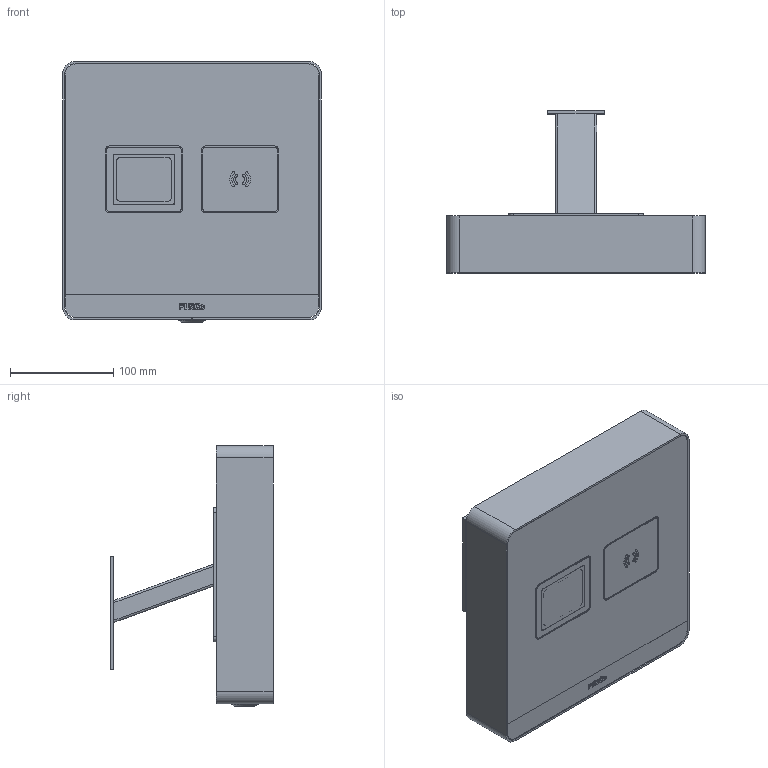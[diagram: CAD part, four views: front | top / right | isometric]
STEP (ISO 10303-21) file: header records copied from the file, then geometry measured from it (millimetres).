
FILE_DESCRIPTION(/* description */ ('Unknown'),/* implementation_level */ '2;1');
FILE_NAME(/* name */ 'PR-01',/* time_stamp */ '2025-10-16T10:14:52+03:00',/* author */ ('Unknown'),/* organization */ ('Unknown'),/* preprocessor_version */ 'ST-DEVELOPER v18.102',/* originating_system */ 'Solid Edge',/* authorisation */ 'Unknown');
FILE_SCHEMA (('CONFIG_CONTROL_DESIGN'));
Length unit declared in the file: millimetre
Products named in the file (1): PR-01
Bounding box: 250 x 156.96 x 252.4 mm (x, y, z)
Volume: 751278.4 mm3; surface area: 657568.8 mm2
Topology: 19 solids, 21 shells, 1029 faces, 2563 edges, 1633 vertices
Faces by surface type: plane 618, cylinder 300, bspline 56, cone 41, torus 12, sphere 2
Full cylindrical faces by diameter (mm): 0.5 x10, 1 x1, 3 x8, 3.5 x4, 3.6 x1, 3.9 x4, 4 x4, 4.134 x2, 5 x23, 5.5 x4, 6 x1, 7 x4, 8 x4, 9 x1, 11 x1, 12.4 x1, 12.6 x1, 13 x1, 15 x1, 15.4 x1, 15.6 x1, 18.7 x1, 20 x1, 21.4 x1, 26.5 x2, 30 x1
Entity records: 35735 total; most frequent: CARTESIAN_POINT 8659, DIRECTION 4778, ORIENTED_EDGE 4736, EDGE_CURVE 2368, AXIS2_PLACEMENT_3D 1615, VERTEX_POINT 1576, LINE 1548, VECTOR 1548
